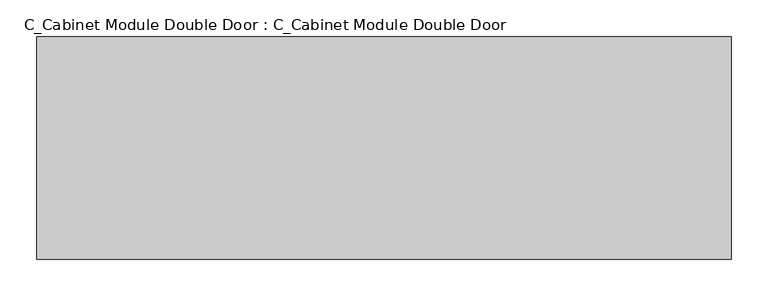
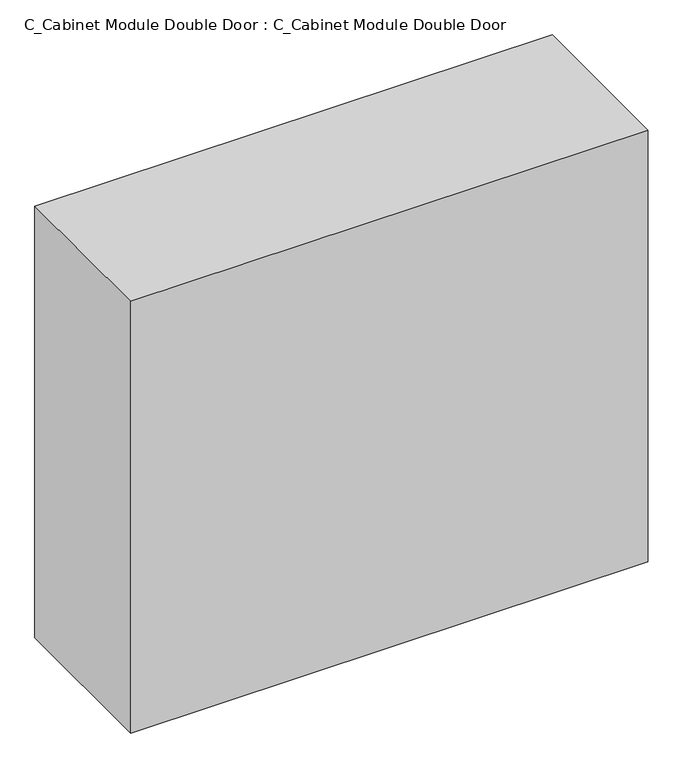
"""IFC4 building model written with IfcOpenShell, lengths in millimetres: furniture geometry, C_Cabinet Module Double Door : C_Cabinet Module Double Door."""

import ifcopenshell
import ifcopenshell.guid

model = None  # the IFC model being written
_history = None  # IfcOwnerHistory: only IFC2X3 demands one
_inside = {}  # id of a spatial element -> (the spatial element, [elements in it])
_under = {}  # id of a project, library or spatial element -> (it, [spatial elements below it])
_declared = {}  # id of a project -> (the project, [libraries it declares])
_typed = {}  # id of a type object -> (the type object, [elements of that type])
_made_of = {}  # id of a material, layer set ... -> (it, [elements and type objects made of it])


def new_model(schema):
    """Start an empty IFC model of exactly this schema.

    Asked for "IFC4X3", IfcOpenShell would pick the latest addendum, in which some entities
    have other attributes; the version numbers below select the first issue.
    IFC2X3 requires an IfcOwnerHistory on every rooted entity: one is made here for all.
    """
    global model, _history
    if schema == "IFC4X3":
        model = ifcopenshell.file(schema_version=(4, 3, 0, 0))
    else:
        model = ifcopenshell.file(schema=schema)
    _inside.clear()
    _under.clear()
    _declared.clear()
    _typed.clear()
    _made_of.clear()
    _history = None
    if model.schema == "IFC2X3":
        org = make("IfcOrganization", Name="unknown")
        user = make(
            "IfcPersonAndOrganization",
            ThePerson=make("IfcPerson", FamilyName="unknown"),
            TheOrganization=org,
        )
        app = make(
            "IfcApplication",
            ApplicationDeveloper=org,
            Version="unknown",
            ApplicationFullName="unknown",
            ApplicationIdentifier="unknown",
        )
        _history = make(
            "IfcOwnerHistory",
            OwningUser=user,
            OwningApplication=app,
            ChangeAction="ADDED",
            CreationDate=0,
        )
    return model


def make(cls, **values):
    """One entity of the class cls with the attributes given. An attribute that is None is left unset."""
    return model.create_entity(
        cls, **{name: value for name, value in values.items() if value is not None}
    )


def rooted(cls, **values):
    """An entity with a GlobalId (a new one), such as an element, a storey or a relation."""
    return make(cls, GlobalId=ifcopenshell.guid.new(), OwnerHistory=_history, **values)


def si_unit(unit_type, name, prefix=None):
    """IfcSIUnit, for example si_unit("LENGTHUNIT", "METRE", prefix="MILLI")."""
    return make("IfcSIUnit", UnitType=unit_type, Prefix=prefix, Name=name)


def assignment(units):
    """IfcUnitAssignment: the units of a project."""
    return None if units is None else make("IfcUnitAssignment", Units=units)


def point(xyz):
    """IfcCartesianPoint."""
    return None if xyz is None else make("IfcCartesianPoint", Coordinates=xyz)


def direction(xyz):
    """IfcDirection."""
    return None if xyz is None else make("IfcDirection", DirectionRatios=xyz)


def frame(location, z_axis=None, x_axis=None):
    """IfcAxis2Placement3D, a coordinate frame: its origin and axes. An axis left out is left unset."""
    return make(
        "IfcAxis2Placement3D",
        Location=point(location),
        Axis=direction(z_axis),
        RefDirection=direction(x_axis),
    )


def origin():
    """The frame at (0, 0, 0) with its axes left unset."""
    return frame((0.0, 0.0, 0.0))


def origin_with_axes():
    """The frame at (0, 0, 0) with the z axis (0, 0, 1) and the x axis (1, 0, 0) written out."""
    return frame((0.0, 0.0, 0.0), z_axis=(0.0, 0.0, 1.0), x_axis=(1.0, 0.0, 0.0))


def place(relative_to, where):
    """IfcLocalPlacement: puts the frame where relative to a parent placement (None: the world)."""
    return make(
        "IfcLocalPlacement", PlacementRelTo=relative_to, RelativePlacement=where
    )


def context(
    kind, dimensions, precision=None, world=None, true_north=None, identifier=None
):
    """IfcGeometricRepresentationContext, for example the 3D "Model" context."""
    return make(
        "IfcGeometricRepresentationContext",
        ContextIdentifier=identifier,
        ContextType=kind,
        CoordinateSpaceDimension=dimensions,
        Precision=precision,
        WorldCoordinateSystem=world,
        TrueNorth=true_north,
    )


def project(units=None, contexts=None):
    """IfcProject with its units and contexts."""
    return rooted(
        "IfcProject",
        Name="project",
        RepresentationContexts=contexts,
        UnitsInContext=assignment(units),
    )


def spatial(cls, under=None, at=None, **own):
    """A site, building, storey or space (cls), placed at a placement, below another one or the project."""
    s = rooted(cls, ObjectPlacement=at, **own)
    if under is not None:
        _under.setdefault(under.id(), (under, []))[1].append(s)
    return s


def polyline(points):
    """IfcPolyline through the points."""
    return make("IfcPolyline", Points=[point(p) for p in points])


def outline(outer, holes=None, kind="AREA"):
    """IfcArbitraryClosedProfileDef: a profile drawn as a closed curve; with holes, ...WithVoids."""
    if holes is None:
        return make("IfcArbitraryClosedProfileDef", ProfileType=kind, OuterCurve=outer)
    return make(
        "IfcArbitraryProfileDefWithVoids",
        ProfileType=kind,
        OuterCurve=outer,
        InnerCurves=holes,
    )


def extrude(swept, where, along, depth):
    """IfcExtrudedAreaSolid: the profile swept, set in the frame where, extruded along a direction by depth."""
    return make(
        "IfcExtrudedAreaSolid",
        SweptArea=swept,
        Position=where,
        ExtrudedDirection=direction(along),
        Depth=depth,
    )


def shape(context_of_items, identifier, shape_type, items):
    """IfcShapeRepresentation: the items that make up one representation, for example the "Body"."""
    return make(
        "IfcShapeRepresentation",
        ContextOfItems=context_of_items,
        RepresentationIdentifier=identifier,
        RepresentationType=shape_type,
        Items=items,
    )


def source(mapping_origin, context_of_items, identifier, shape_type, items):
    """IfcRepresentationMap: a shape defined once, which mapped items show again and again."""
    return make(
        "IfcRepresentationMap",
        MappingOrigin=mapping_origin,
        MappedRepresentation=shape(context_of_items, identifier, shape_type, items),
    )


def transform(
    local_origin,
    x_axis=None,
    y_axis=None,
    z_axis=None,
    scale=None,
    scale2=None,
    scale3=None,
    uniform=True,
):
    """IfcCartesianTransformationOperator3D, or its non-uniform kind. x_axis, y_axis, z_axis: its Axis1, 2, 3."""
    if uniform:
        return make(
            "IfcCartesianTransformationOperator3D",
            Axis1=direction(x_axis),
            Axis2=direction(y_axis),
            LocalOrigin=point(local_origin),
            Scale=scale,
            Axis3=direction(z_axis),
        )
    return make(
        "IfcCartesianTransformationOperator3DnonUniform",
        Axis1=direction(x_axis),
        Axis2=direction(y_axis),
        LocalOrigin=point(local_origin),
        Scale=scale,
        Axis3=direction(z_axis),
        Scale2=scale2,
        Scale3=scale3,
    )


def mapped(mapping_source, mapping_target):
    """IfcMappedItem: shows the shape of a source again, moved by a transform."""
    return make(
        "IfcMappedItem", MappingSource=mapping_source, MappingTarget=mapping_target
    )


def made_of(thing, what):
    """Note that an element or type object is made of a material, layer set ...; save() writes the relation."""
    if what is not None:
        _made_of.setdefault(what.id(), (what, []))[1].append(thing)
    return thing


def element(
    cls,
    number,
    at=None,
    inside=None,
    cuts=None,
    type_object=None,
    material=None,
    context=None,
    identifier="Body",
    shape_type=None,
    held_by="IfcProductDefinitionShape",
    body=None,
    shapes=None,
    **own,
):
    """One element of the class cls, such as IfcWall. Its Tag is "e" and its number.

    at: its placement. inside: the storey or other place that contains it. cuts: it is an
    opening in that element (IfcRelVoidsElement). A single representation is given by context,
    identifier, shape_type and body (its items); several are given by shapes. held_by: the class
    of the entity that holds the representations. save() writes the other relations.
    """
    e = rooted(cls, Tag="e%d" % number, ObjectPlacement=at, **own)
    if body is not None:
        shapes = [shape(context, identifier, shape_type, body)]
    if shapes is not None:
        e.Representation = make(held_by, Representations=shapes)
    if inside is not None:
        _inside.setdefault(inside.id(), (inside, []))[1].append(e)
    if cuts is not None:
        rooted(
            "IfcRelVoidsElement", RelatingBuildingElement=cuts, RelatedOpeningElement=e
        )
    if type_object is not None:
        _typed.setdefault(type_object.id(), (type_object, []))[1].append(e)
    return made_of(e, material)


def aggregate(whole, parts):
    """IfcRelAggregates: a whole, such as a stair, and the parts it consists of."""
    return rooted("IfcRelAggregates", RelatingObject=whole, RelatedObjects=parts)


def save(model, path):
    """Write the relations noted so far, then the file.

    IfcRelAggregates (storeys below a building ...), IfcRelContainedInSpatialStructure (elements
    in a storey), IfcRelDefinesByType, IfcRelAssociatesMaterial and IfcRelDeclares: one each for
    every whole, place, type object, material and project.
    """
    for whole, parts in _under.values():
        aggregate(whole, parts)
    for where, things in _inside.values():
        rooted(
            "IfcRelContainedInSpatialStructure",
            RelatedElements=things,
            RelatingStructure=where,
        )
    for kind, things in _typed.values():
        rooted("IfcRelDefinesByType", RelatedObjects=things, RelatingType=kind)
    for what, things in _made_of.values():
        rooted("IfcRelAssociatesMaterial", RelatedObjects=things, RelatingMaterial=what)
    for by, libraries in _declared.values():
        rooted("IfcRelDeclares", RelatingContext=by, RelatedDefinitions=libraries)
    model.write(path)


def c_cabinet_module_double_door_c_cabinet_module_double_door_635d7a1f(model_context):
    return source(origin(), model_context, "Body", "SweptSolid", [
        extrude(outline(polyline([(475.45625, 0.0), (-475.45625, 0.0), (-475.45625, 304.8), (475.45625, 304.8), (475.45625, 0.0)])), origin_with_axes(), (0.0, 0.0, 1.0), 838.2),
    ])


if __name__ == "__main__":
    model = new_model("IFC4")
    model_context = context("Model", 3, world=origin())
    ifc_project = project(units=[si_unit("LENGTHUNIT", "METRE", prefix="MILLI")], contexts=[model_context])
    site = spatial("IfcSite", under=ifc_project)
    building = spatial("IfcBuilding", under=site)
    placement = place(None, origin())
    c_cabinet_module_double_door_c_cabinet_module_double_door_shape = c_cabinet_module_double_door_c_cabinet_module_double_door_635d7a1f(model_context)
    element("IfcFurniture", 1, ObjectType="C_Cabinet Module Double Door : C_Cabinet Module Double Door", at=placement, inside=building, context=model_context, shape_type="MappedRepresentation", body=[
        mapped(c_cabinet_module_double_door_c_cabinet_module_double_door_shape, transform((0.0, 0.0, 0.0), x_axis=(1.0, 0.0, 0.0), y_axis=(0.0, 1.0, 0.0), z_axis=(0.0, 0.0, 1.0))),
    ])
    save(model, "model.ifc")
